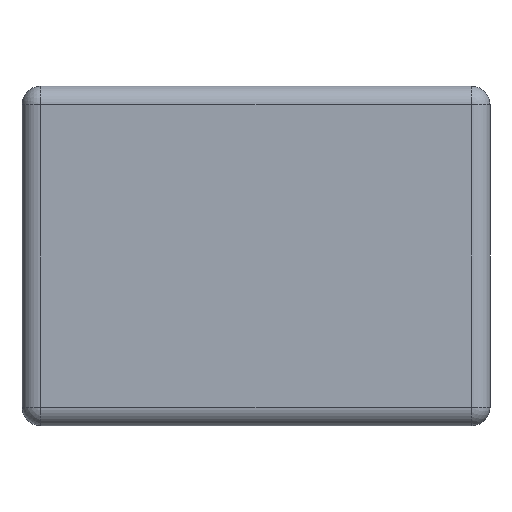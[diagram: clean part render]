
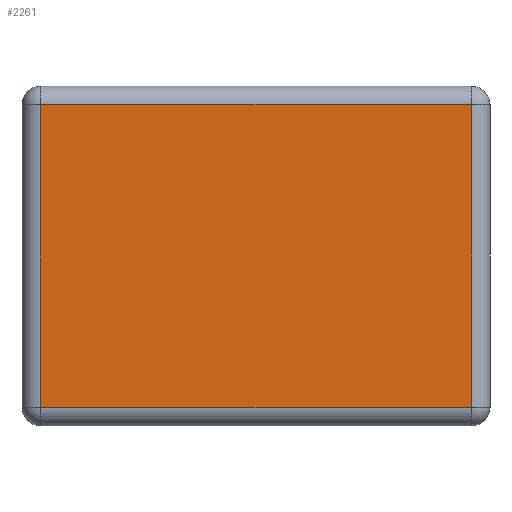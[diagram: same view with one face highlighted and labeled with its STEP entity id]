
A CAD part, front view. The second image highlights one B-rep face of the part: STEP entity #2261.
In plain terms, the highlighted planar face has unit normal (0, -1, 0).
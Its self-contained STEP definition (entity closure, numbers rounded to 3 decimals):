
#53=PLANE('',#2496);
#132=LINE('',#4349,#250);
#134=LINE('',#4357,#252);
#136=LINE('',#4366,#254);
#137=LINE('',#4373,#255);
#250=VECTOR('',#2955,148.9);
#252=VECTOR('',#2963,104.5);
#254=VECTOR('',#2975,148.9);
#255=VECTOR('',#2988,104.5);
#493=FACE_OUTER_BOUND('',#651,.T.);
#651=EDGE_LOOP('',(#1789,#1790,#1791,#1792));
#1030=VERTEX_POINT('',#4345);
#1032=VERTEX_POINT('',#4348);
#1034=VERTEX_POINT('',#4354);
#1037=VERTEX_POINT('',#4364);
#1283=EDGE_CURVE('',#1032,#1030,#132,.T.);
#1287=EDGE_CURVE('',#1030,#1034,#134,.T.);
#1292=EDGE_CURVE('',#1034,#1037,#136,.T.);
#1297=EDGE_CURVE('',#1037,#1032,#137,.T.);
#1789=ORIENTED_EDGE('',*,*,#1283,.T.);
#1790=ORIENTED_EDGE('',*,*,#1287,.T.);
#1791=ORIENTED_EDGE('',*,*,#1292,.T.);
#1792=ORIENTED_EDGE('',*,*,#1297,.T.);
#2261=ADVANCED_FACE('',(#493),#53,.F.);
#2496=AXIS2_PLACEMENT_3D('',#4384,#3006,#3007);
#2955=DIRECTION('',(1.,0.,0.));
#2963=DIRECTION('',(0.,0.,1.));
#2975=DIRECTION('',(-1.,0.,0.));
#2988=DIRECTION('',(0.,0.,-1.));
#3006=DIRECTION('center_axis',(0.,1.,0.));
#3007=DIRECTION('ref_axis',(1.,0.,0.));
#4345=CARTESIAN_POINT('',(-79.4,-177.8,-34.75));
#4348=CARTESIAN_POINT('',(-228.3,-177.8,-34.75));
#4349=CARTESIAN_POINT('',(-153.85,-177.8,-34.75));
#4354=CARTESIAN_POINT('',(-79.4,-177.8,69.75));
#4357=CARTESIAN_POINT('',(-79.4,-177.8,76.25));
#4364=CARTESIAN_POINT('',(-228.3,-177.8,69.75));
#4366=CARTESIAN_POINT('',(-234.8,-177.8,69.75));
#4373=CARTESIAN_POINT('',(-228.3,-177.8,17.5));
#4384=CARTESIAN_POINT('Origin',(-234.8,-177.8,76.25));
